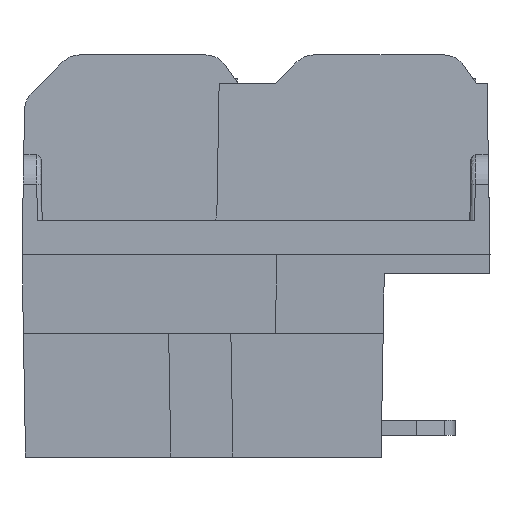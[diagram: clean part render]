
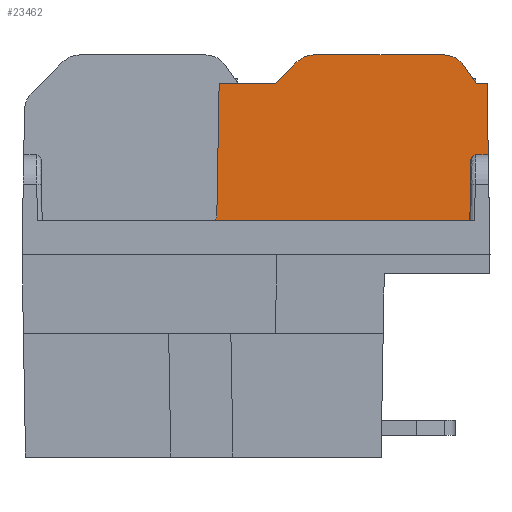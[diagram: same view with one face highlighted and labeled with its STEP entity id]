
A CAD part, left-side view. The second image highlights one B-rep face of the part: STEP entity #23462.
In plain terms, the highlighted planar face has unit normal (-1, 0, 0.018).
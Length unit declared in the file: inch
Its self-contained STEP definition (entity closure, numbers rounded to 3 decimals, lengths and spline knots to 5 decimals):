
#858=ELLIPSE('',#24905,0.01,0.01);
#865=ELLIPSE('',#24918,0.01,0.01);
#866=ELLIPSE('',#24919,0.05001,0.05);
#867=ELLIPSE('',#24920,0.05001,0.05);
#1290=FACE_OUTER_BOUND('',#2577,.T.);
#2577=EDGE_LOOP('',(#16775,#16776,#16777,#16778,#16779,#16780,#16781,#16782,
#16783,#16784,#16785,#16786,#16787,#16788));
#3716=LINE('',#32362,#6656);
#3813=LINE('',#32579,#6753);
#4337=LINE('',#33616,#7277);
#4558=LINE('',#34325,#7498);
#4569=LINE('',#34360,#7509);
#4570=LINE('',#34363,#7510);
#4571=LINE('',#34366,#7511);
#4572=LINE('',#34368,#7512);
#4573=LINE('',#34372,#7513);
#4574=LINE('',#34375,#7514);
#6656=VECTOR('',#26301,0.3937);
#6753=VECTOR('',#26428,0.3937);
#7277=VECTOR('',#27246,0.3937);
#7498=VECTOR('',#27613,0.3937);
#7509=VECTOR('',#27644,0.3937);
#7510=VECTOR('',#27647,0.3937);
#7511=VECTOR('',#27650,0.3937);
#7512=VECTOR('',#27651,0.3937);
#7513=VECTOR('',#27654,0.3937);
#7514=VECTOR('',#27657,0.3937);
#9590=VERTEX_POINT('',#32359);
#9591=VERTEX_POINT('',#32361);
#9683=VERTEX_POINT('',#32577);
#10048=VERTEX_POINT('',#33613);
#10049=VERTEX_POINT('',#33615);
#10221=VERTEX_POINT('',#34318);
#10222=VERTEX_POINT('',#34320);
#10223=VERTEX_POINT('',#34324);
#10238=VERTEX_POINT('',#34362);
#10239=VERTEX_POINT('',#34364);
#10240=VERTEX_POINT('',#34367);
#10241=VERTEX_POINT('',#34369);
#10242=VERTEX_POINT('',#34371);
#10243=VERTEX_POINT('',#34373);
#11856=EDGE_CURVE('',#9590,#9591,#3716,.T.);
#11958=EDGE_CURVE('',#9683,#9590,#3813,.T.);
#12484=EDGE_CURVE('',#10048,#10049,#4337,.T.);
#12741=EDGE_CURVE('',#10221,#10222,#858,.T.);
#12743=EDGE_CURVE('',#10223,#10221,#4558,.T.);
#12762=EDGE_CURVE('',#10048,#10222,#4569,.T.);
#12763=EDGE_CURVE('',#10238,#10223,#4570,.F.);
#12764=EDGE_CURVE('',#10239,#10238,#865,.F.);
#12765=EDGE_CURVE('',#9591,#10239,#4571,.F.);
#12766=EDGE_CURVE('',#10240,#9683,#4572,.T.);
#12767=EDGE_CURVE('',#10241,#10240,#866,.T.);
#12768=EDGE_CURVE('',#10242,#10241,#4573,.T.);
#12769=EDGE_CURVE('',#10243,#10242,#867,.T.);
#12770=EDGE_CURVE('',#10049,#10243,#4574,.T.);
#16775=ORIENTED_EDGE('',*,*,#12762,.T.);
#16776=ORIENTED_EDGE('',*,*,#12741,.F.);
#16777=ORIENTED_EDGE('',*,*,#12743,.F.);
#16778=ORIENTED_EDGE('',*,*,#12763,.F.);
#16779=ORIENTED_EDGE('',*,*,#12764,.F.);
#16780=ORIENTED_EDGE('',*,*,#12765,.F.);
#16781=ORIENTED_EDGE('',*,*,#11856,.F.);
#16782=ORIENTED_EDGE('',*,*,#11958,.F.);
#16783=ORIENTED_EDGE('',*,*,#12766,.F.);
#16784=ORIENTED_EDGE('',*,*,#12767,.F.);
#16785=ORIENTED_EDGE('',*,*,#12768,.F.);
#16786=ORIENTED_EDGE('',*,*,#12769,.F.);
#16787=ORIENTED_EDGE('',*,*,#12770,.F.);
#16788=ORIENTED_EDGE('',*,*,#12484,.F.);
#22435=PLANE('',#24917);
#23462=ADVANCED_FACE('',(#1290),#22435,.F.);
#24905=AXIS2_PLACEMENT_3D('',#34321,#27608,#27609);
#24917=AXIS2_PLACEMENT_3D('',#34361,#27645,#27646);
#24918=AXIS2_PLACEMENT_3D('',#34365,#27648,#27649);
#24919=AXIS2_PLACEMENT_3D('',#34370,#27652,#27653);
#24920=AXIS2_PLACEMENT_3D('',#34374,#27655,#27656);
#26301=DIRECTION('',(-0.017,-0.017,-1.));
#26428=DIRECTION('',(0.,-1.,0.));
#27246=DIRECTION('',(0.,-1.,0.));
#27608=DIRECTION('center_axis',(-1.,0.,0.017));
#27609=DIRECTION('ref_axis',(-0.017,0.,-1.));
#27613=DIRECTION('',(0.,1.,0.));
#27644=DIRECTION('',(-0.017,0.017,-1.));
#27645=DIRECTION('center_axis',(1.,0.,-0.017));
#27646=DIRECTION('ref_axis',(-0.017,0.,-1.));
#27647=DIRECTION('',(0.017,-0.017,1.));
#27648=DIRECTION('center_axis',(1.,0.,-0.017));
#27649=DIRECTION('ref_axis',(0.017,0.,1.));
#27650=DIRECTION('',(0.,-1.,0.));
#27651=DIRECTION('',(-0.014,-0.574,-0.819));
#27652=DIRECTION('center_axis',(1.,0.,-0.017));
#27653=DIRECTION('ref_axis',(0.017,0.,1.));
#27654=DIRECTION('',(0.,-1.,0.));
#27655=DIRECTION('center_axis',(1.,0.,-0.017));
#27656=DIRECTION('ref_axis',(0.017,0.,1.));
#27657=DIRECTION('',(0.012,-0.707,0.707));
#32359=CARTESIAN_POINT('',(0.46647,0.00698,0.4));
#32361=CARTESIAN_POINT('',(0.46386,0.00436,0.25));
#32362=CARTESIAN_POINT('',(0.46172,0.00223,0.12756));
#32577=CARTESIAN_POINT('',(0.46647,0.02896,0.4));
#32579=CARTESIAN_POINT('',(0.46647,0.26288,0.4));
#33613=CARTESIAN_POINT('',(0.46647,0.57,0.4));
#33615=CARTESIAN_POINT('',(0.46647,0.45171,0.4));
#33616=CARTESIAN_POINT('',(0.46647,0.51338,0.4));
#34318=CARTESIAN_POINT('',(0.46145,0.58485,0.112));
#34320=CARTESIAN_POINT('',(0.46162,0.57486,0.12183));
#34321=CARTESIAN_POINT('Origin',(0.46162,0.58485,0.122));
#34324=CARTESIAN_POINT('',(0.46145,0.04305,0.112));
#34325=CARTESIAN_POINT('',(0.46145,0.49465,0.112));
#34360=CARTESIAN_POINT('',(0.46171,0.57476,0.12727));
#34361=CARTESIAN_POINT('Origin',(0.46234,0.49681,0.16345));
#34362=CARTESIAN_POINT('',(0.46368,0.04081,0.24017));
#34363=CARTESIAN_POINT('',(0.46078,0.04371,0.07375));
#34364=CARTESIAN_POINT('',(0.46386,0.03081,0.25));
#34365=CARTESIAN_POINT('Origin',(0.46368,0.03081,0.24));
#34366=CARTESIAN_POINT('',(0.46386,0.25965,0.25));
#34367=CARTESIAN_POINT('',(0.46715,0.05604,0.43868));
#34368=CARTESIAN_POINT('',(0.46734,0.06384,0.44982));
#34369=CARTESIAN_POINT('',(0.46752,0.097,0.46));
#34370=CARTESIAN_POINT('Origin',(0.46665,0.097,0.41));
#34371=CARTESIAN_POINT('',(0.46752,0.371,0.46));
#34372=CARTESIAN_POINT('',(0.46752,0.4339,0.46));
#34373=CARTESIAN_POINT('',(0.46727,0.40636,0.44536));
#34374=CARTESIAN_POINT('Origin',(0.46665,0.371,0.41));
#34375=CARTESIAN_POINT('',(0.46524,0.52215,0.32956));
